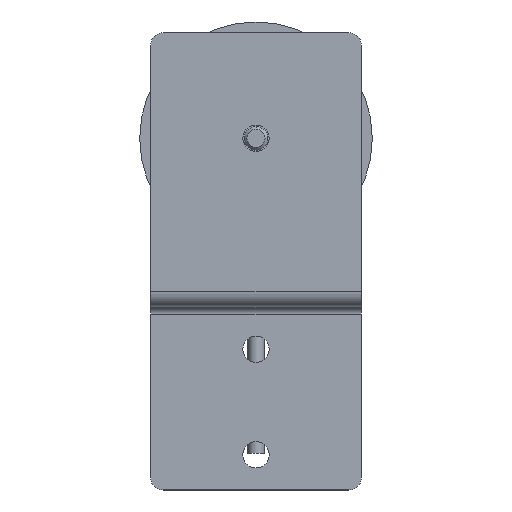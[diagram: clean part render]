
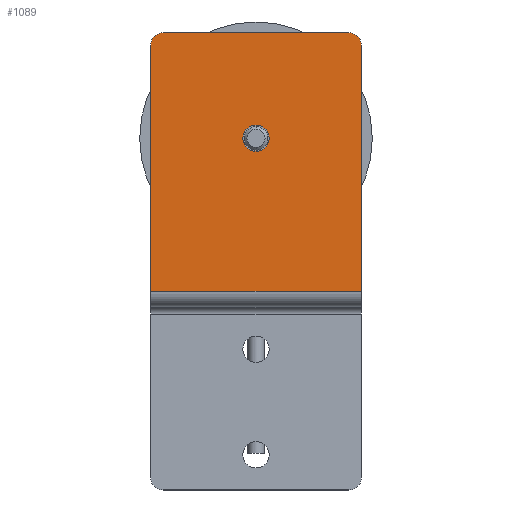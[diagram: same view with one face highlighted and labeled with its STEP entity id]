
A CAD part, front view. The second image highlights one B-rep face of the part: STEP entity #1089.
In plain terms, the highlighted planar face has unit normal (0, -1, 0).
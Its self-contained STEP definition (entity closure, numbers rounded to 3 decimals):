
#1089=ADVANCED_FACE('',(#3164,#3165),#3166,.T.);
#3164=FACE_OUTER_BOUND('',#6288,.T.);
#3165=FACE_BOUND('',#6289,.T.);
#3166=PLANE('',#6290);
#6288=EDGE_LOOP('',(#47382,#47383,#47384,#47385,#47386,#47387,#47388,#47389));
#6289=EDGE_LOOP('',(#47390,#47391));
#6290=AXIS2_PLACEMENT_3D('',#47392,#47393,#47394);
#47382=ORIENTED_EDGE('',*,*,#56137,.F.);
#47383=ORIENTED_EDGE('',*,*,#56152,.T.);
#47384=ORIENTED_EDGE('',*,*,#56139,.F.);
#47385=ORIENTED_EDGE('',*,*,#56128,.F.);
#47386=ORIENTED_EDGE('',*,*,#56167,.T.);
#47387=ORIENTED_EDGE('',*,*,#56194,.F.);
#47388=ORIENTED_EDGE('',*,*,#56195,.T.);
#47389=ORIENTED_EDGE('',*,*,#56131,.F.);
#47390=ORIENTED_EDGE('',*,*,#56177,.T.);
#47391=ORIENTED_EDGE('',*,*,#56113,.T.);
#47392=CARTESIAN_POINT('',(472.123,-18.67,0.716));
#47393=DIRECTION('',(0.,-1.0,0.));
#47394=DIRECTION('',(0.,0.,1.0));
#56113=EDGE_CURVE('',#59727,#59731,#59733,.T.);
#56128=EDGE_CURVE('',#59758,#59754,#59760,.T.);
#56131=EDGE_CURVE('',#59762,#59765,#59766,.T.);
#56137=EDGE_CURVE('',#59773,#59762,#59775,.T.);
#56139=EDGE_CURVE('',#59754,#59777,#59778,.T.);
#56152=EDGE_CURVE('',#59773,#59777,#59796,.T.);
#56167=EDGE_CURVE('',#59758,#59818,#59820,.T.);
#56177=EDGE_CURVE('',#59731,#59727,#59831,.T.);
#56194=EDGE_CURVE('',#59851,#59818,#59852,.T.);
#56195=EDGE_CURVE('',#59851,#59765,#59853,.T.);
#59727=VERTEX_POINT('',#64981);
#59731=VERTEX_POINT('',#64986);
#59733=CIRCLE('',#64989,2.375);
#59754=VERTEX_POINT('',#65014);
#59758=VERTEX_POINT('',#65019);
#59760=CIRCLE('',#65022,2.29);
#59762=VERTEX_POINT('',#65024);
#59765=VERTEX_POINT('',#65028);
#59766=CIRCLE('',#65029,2.29);
#59773=VERTEX_POINT('',#65037);
#59775=CIRCLE('',#65040,2.29);
#59777=VERTEX_POINT('',#65042);
#59778=CIRCLE('',#65043,2.29);
#59796=LINE('',#65065,#65066);
#59818=VERTEX_POINT('',#65095);
#59820=LINE('',#65097,#65098);
#59831=CIRCLE('',#65113,2.375);
#59851=VERTEX_POINT('',#65138);
#59852=LINE('',#65139,#65140);
#59853=LINE('',#65141,#65142);
#64981=CARTESIAN_POINT('',(450.698,-18.67,5.008));
#64986=CARTESIAN_POINT('',(455.448,-18.67,5.008));
#64989=AXIS2_PLACEMENT_3D('',#74844,#74845,#74846);
#65014=CARTESIAN_POINT('',(434.694,-18.67,23.388));
#65019=CARTESIAN_POINT('',(434.023,-18.67,21.768));
#65022=AXIS2_PLACEMENT_3D('',#74868,#74869,#74870);
#65024=CARTESIAN_POINT('',(471.452,-18.67,23.388));
#65028=CARTESIAN_POINT('',(472.123,-18.67,21.768));
#65029=AXIS2_PLACEMENT_3D('',#74872,#74873,#74874);
#65037=CARTESIAN_POINT('',(469.833,-18.67,24.058));
#65040=AXIS2_PLACEMENT_3D('',#74883,#74884,#74885);
#65042=CARTESIAN_POINT('',(436.313,-18.67,24.058));
#65043=AXIS2_PLACEMENT_3D('',#74886,#74887,#74888);
#65065=CARTESIAN_POINT('',(472.123,-18.67,24.058));
#65066=VECTOR('',#74908,1.0);
#65095=CARTESIAN_POINT('',(434.023,-18.67,-22.627));
#65097=CARTESIAN_POINT('',(434.023,-18.67,-22.627));
#65098=VECTOR('',#74931,1.0);
#65113=AXIS2_PLACEMENT_3D('',#74942,#74943,#74944);
#65138=CARTESIAN_POINT('',(472.123,-18.67,-22.627));
#65139=CARTESIAN_POINT('',(472.123,-18.67,-22.627));
#65140=VECTOR('',#74962,1.0);
#65141=CARTESIAN_POINT('',(472.123,-18.67,-22.627));
#65142=VECTOR('',#74963,1.0);
#74844=CARTESIAN_POINT('',(453.073,-18.67,5.008));
#74845=DIRECTION('',(0.,1.0,0.));
#74846=DIRECTION('',(-1.0,0.,0.0));
#74868=CARTESIAN_POINT('',(436.313,-18.67,21.768));
#74869=DIRECTION('',(0.,1.0,0.));
#74870=DIRECTION('',(-0.707,0.,0.707));
#74872=CARTESIAN_POINT('',(469.833,-18.67,21.768));
#74873=DIRECTION('',(0.,1.0,0.));
#74874=DIRECTION('',(0.707,0.,0.707));
#74883=CARTESIAN_POINT('',(469.833,-18.67,21.768));
#74884=DIRECTION('',(0.,1.0,0.));
#74885=DIRECTION('',(0.707,0.,0.707));
#74886=CARTESIAN_POINT('',(436.313,-18.67,21.768));
#74887=DIRECTION('',(0.,1.0,0.));
#74888=DIRECTION('',(-0.707,0.,0.707));
#74908=DIRECTION('',(-1.0,0.0,0.0));
#74931=DIRECTION('',(0.0,0.0,-1.0));
#74942=CARTESIAN_POINT('',(453.073,-18.67,5.008));
#74943=DIRECTION('',(0.,1.0,0.));
#74944=DIRECTION('',(-1.0,0.,0.0));
#74962=DIRECTION('',(-1.0,0.0,0.0));
#74963=DIRECTION('',(0.0,0.0,1.0));
